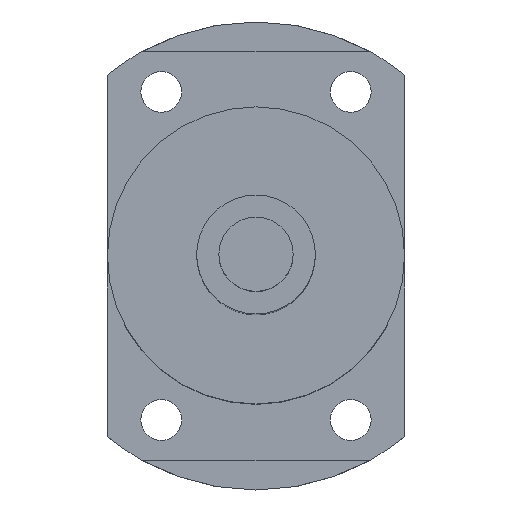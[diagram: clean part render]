
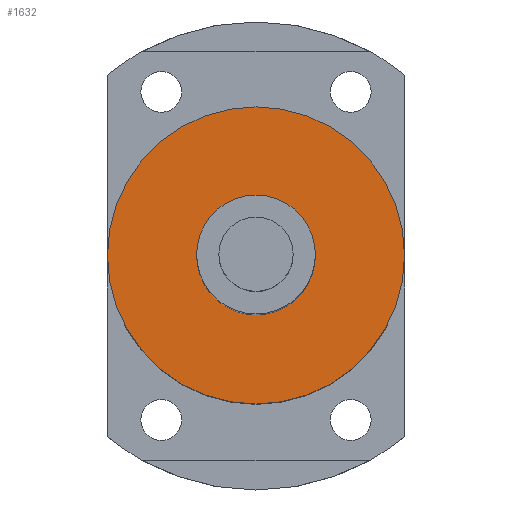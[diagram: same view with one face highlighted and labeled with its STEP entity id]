
A CAD part, top view. The second image highlights one B-rep face of the part: STEP entity #1632.
In plain terms, the highlighted planar face has unit normal (0, 0, 1).
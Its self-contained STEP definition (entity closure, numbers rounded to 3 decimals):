
#503=CARTESIAN_POINT('',(0.,0.,175.5));
#504=DIRECTION('',(0.,0.,1.));
#505=DIRECTION('',(1.,0.,0.));
#506=AXIS2_PLACEMENT_3D('',#503,#504,#505);
#508=CARTESIAN_POINT('',(0.,0.,175.5));
#509=DIRECTION('',(0.,0.,1.));
#510=DIRECTION('',(-1.,0.,0.));
#511=AXIS2_PLACEMENT_3D('',#508,#509,#510);
#513=CARTESIAN_POINT('',(0.,0.,175.5));
#514=DIRECTION('',(0.,0.,1.));
#515=DIRECTION('',(1.,0.,0.));
#516=AXIS2_PLACEMENT_3D('',#513,#514,#515);
#518=CARTESIAN_POINT('',(0.,0.,175.5));
#519=DIRECTION('',(0.,0.,1.));
#520=DIRECTION('',(-1.,0.,0.));
#521=AXIS2_PLACEMENT_3D('',#518,#519,#520);
#757=CARTESIAN_POINT('',(20.,0.,175.5));
#758=CARTESIAN_POINT('',(-20.,0.,175.5));
#759=VERTEX_POINT('',#757);
#760=VERTEX_POINT('',#758);
#769=CARTESIAN_POINT('',(8.,0.,175.5));
#770=CARTESIAN_POINT('',(-8.,0.,175.5));
#771=VERTEX_POINT('',#769);
#772=VERTEX_POINT('',#770);
#1617=CARTESIAN_POINT('',(0.,0.,175.5));
#1618=DIRECTION('',(0.,0.,1.));
#1619=DIRECTION('',(1.,0.,0.));
#1620=AXIS2_PLACEMENT_3D('',#1617,#1618,#1619);
#1621=PLANE('',#1620);
#1622=ORIENTED_EDGE('',*,*,#1597,.F.);
#1623=ORIENTED_EDGE('',*,*,#1611,.F.);
#1624=EDGE_LOOP('',(#1622,#1623));
#1625=FACE_OUTER_BOUND('',#1624,.F.);
#1627=ORIENTED_EDGE('',*,*,#1626,.T.);
#1629=ORIENTED_EDGE('',*,*,#1628,.T.);
#1630=EDGE_LOOP('',(#1627,#1629));
#1631=FACE_BOUND('',#1630,.F.);
#1632=ADVANCED_FACE('',(#1625,#1631),#1621,.T.);
#507=CIRCLE('',#506,20.);
#512=CIRCLE('',#511,20.);
#517=CIRCLE('',#516,8.);
#522=CIRCLE('',#521,8.);
#1597=EDGE_CURVE('',#759,#760,#507,.T.);
#1611=EDGE_CURVE('',#760,#759,#512,.T.);
#1626=EDGE_CURVE('',#771,#772,#517,.T.);
#1628=EDGE_CURVE('',#772,#771,#522,.T.);
